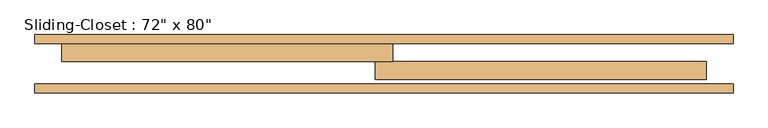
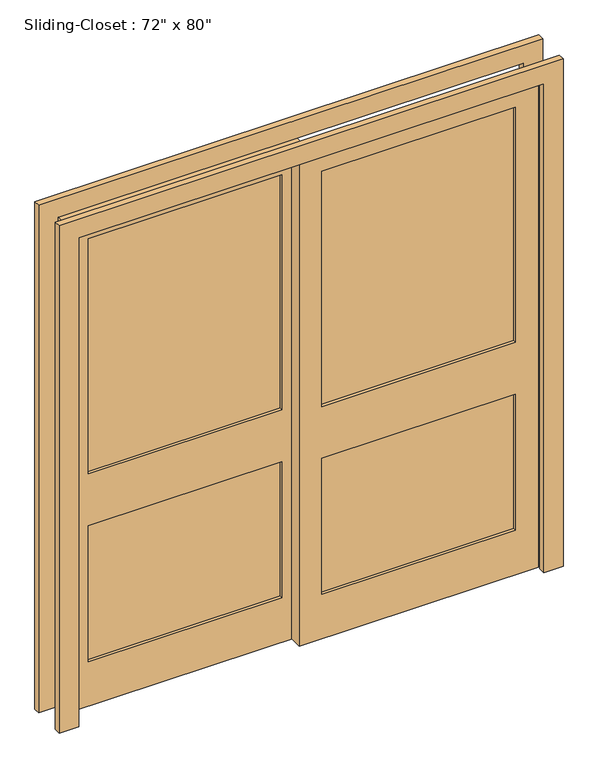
"""IFC4 building model written with IfcOpenShell, lengths in millimetres: door geometry."""

from ifc_helpers import new_model, si_unit, frame, origin, place, context, project, spatial, polyline, outline, extrude, source, transform, mapped, element, save


def door_caaf2a11(model_context):
    return source(origin(), model_context, "Body", "SweptSolid", [
        extrude(outline(polyline([(-63.5, 146.05), (-825.5, 146.05), (-825.5, 171.45), (-63.5, 171.45), (-63.5, 146.05)])), frame((0.0, 0.0, 965.2), z_axis=(0.0, 0.0, 1.0), x_axis=(1.0, 0.0, 0.0)), (0.0, 0.0, 1.0), 977.9),
        extrude(outline(polyline([(-63.5, 146.05), (-825.5, 146.05), (-825.5, 171.45), (-63.5, 171.45), (-63.5, 146.05)])), frame((0.0, 0.0, 184.15), z_axis=(0.0, 0.0, 1.0), x_axis=(1.0, 0.0, 0.0)), (0.0, 0.0, 1.0), 565.15),
        extrude(outline(polyline([(63.5, 120.65), (825.5, 120.65), (825.5, 95.25), (63.5, 95.25), (63.5, 120.65)])), frame((0.0, 0.0, 965.2), z_axis=(0.0, 0.0, 1.0), x_axis=(1.0, 0.0, 0.0)), (0.0, 0.0, 1.0), 977.9),
        extrude(outline(polyline([(63.5, 120.65), (825.5, 120.65), (825.5, 95.25), (63.5, 95.25), (63.5, 120.65)])), frame((0.0, 0.0, 184.15), z_axis=(0.0, 0.0, 1.0), x_axis=(1.0, 0.0, 0.0)), (0.0, 0.0, 1.0), 565.15),
        extrude(outline(polyline([(2032.0, 25.4), (2032.0, -914.4), (0.0, -914.4), (0.0, 25.4), (2032.0, 25.4)]), holes=[polyline([(184.15, -825.5), (749.3, -825.5), (749.3, -63.5), (184.15, -63.5), (184.15, -825.5)]), polyline([(965.2, -825.5), (1943.1, -825.5), (1943.1, -63.5), (965.2, -63.5), (965.2, -825.5)])]), frame((0.0, 133.35, 0.0), z_axis=(0.0, 1.0, 0.0), x_axis=(0.0, 0.0, 1.0)), (0.0, 0.0, 1.0), 50.8),
        extrude(outline(polyline([(0.0, -990.6), (0.0, -914.4), (2032.0, -914.4), (2032.0, 914.4), (0.0, 914.4), (0.0, 990.6), (2108.2, 990.6), (2108.2, -990.6), (0.0, -990.6)])), frame((0.0, 44.45, 0.0), z_axis=(0.0, 1.0, 0.0), x_axis=(0.0, 0.0, 1.0)), (0.0, 0.0, 1.0), 25.4),
        extrude(outline(polyline([(0.0, 990.6), (2108.2, 990.6), (2108.2, -990.6), (0.0, -990.6), (0.0, -914.4), (2032.0, -914.4), (2032.0, 914.4), (0.0, 914.4), (0.0, 990.6)])), frame((0.0, 184.15, 0.0), z_axis=(0.0, 1.0, 0.0), x_axis=(0.0, 0.0, 1.0)), (0.0, 0.0, 1.0), 25.4),
        extrude(outline(polyline([(2032.0, -25.4), (0.0, -25.4), (0.0, 914.4), (2032.0, 914.4), (2032.0, -25.4)]), holes=[polyline([(965.2, 825.5), (965.2, 63.5), (1943.1, 63.5), (1943.1, 825.5), (965.2, 825.5)]), polyline([(184.15, 825.5), (184.15, 63.5), (749.3, 63.5), (749.3, 825.5), (184.15, 825.5)])]), frame((0.0, 82.55, 0.0), z_axis=(0.0, 1.0, 0.0), x_axis=(0.0, 0.0, 1.0)), (0.0, 0.0, 1.0), 50.8),
    ])


if __name__ == "__main__":
    model = new_model("IFC4")
    model_context = context("Model", 3, world=origin())
    ifc_project = project(units=[si_unit("LENGTHUNIT", "METRE", prefix="MILLI")], contexts=[model_context])
    site = spatial("IfcSite", under=ifc_project)
    building = spatial("IfcBuilding", under=site)
    placement = place(None, origin())
    door_shape = door_caaf2a11(model_context)
    element("IfcDoor", 1, ObjectType="Sliding-Closet : 72\" x 80\"", at=placement, inside=building, context=model_context, shape_type="MappedRepresentation", body=[
        mapped(door_shape, transform((0.0, 0.0, 0.0), x_axis=(1.0, 0.0, 0.0), y_axis=(0.0, 1.0, 0.0), z_axis=(0.0, 0.0, 1.0))),
    ])
    save(model, "model.ifc")
